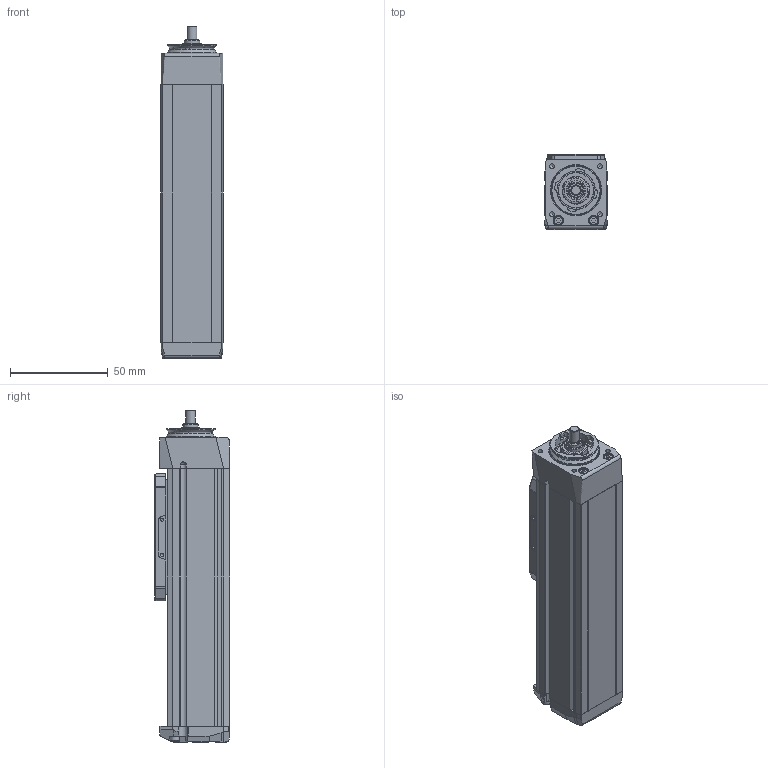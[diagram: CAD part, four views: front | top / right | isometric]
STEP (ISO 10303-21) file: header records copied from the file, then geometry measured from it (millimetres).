
FILE_DESCRIPTION(/* description */ ('STEP AP214'),/* implementation_level */ '2;1');
FILE_NAME(/* name */ 'MGBS 32 0802 50(0)',/* time_stamp */ '2023-04-12T10:38:14+02:00',/* author */ ('License CC BY-ND 4.0'),/* organization */ ('CADENAS'),/* preprocessor_version */ 'ST-DEVELOPER v19.3',/* originating_system */ 'PARTsolutions',/* authorisation */ ' ');
FILE_SCHEMA (('AUTOMOTIVE_DESIGN {1 0 10303 214 3 1 1}'));
Length unit declared in the file: millimetre
Products named in the file (6): MGBS 32 0802 50(0); MGBS 32 50_protection_strip; MGBS 32_carriage; MGBS 32_end_block; MGBS 32 50_profile; MGBS 32_drive_block
Assembly tree (5 placements, depth 2):
  MGBS 32 0802 50(0)
    MGBS 32 50_protection_strip
    MGBS 32_carriage
    MGBS 32_end_block
    MGBS 32 50_profile
    MGBS 32_drive_block
Bounding box: 32 x 38.5 x 169.5 mm (x, y, z)
Volume: 160779.8 mm3; surface area: 46458.3 mm2
Topology: 5 solids, 5 shells, 638 faces, 1686 edges, 1092 vertices
Faces by surface type: plane 301, cylinder 160, cone 94, bspline 56, torus 25, sphere 2
Full cylindrical faces by diameter (mm): 0.3 x1, 1.567 x4, 1.755 x4, 1.8 x2, 2 x2, 2.3 x4, 2.459 x8, 2.46 x4, 2.5 x11, 3 x1, 3.8 x4, 4.5 x6, 5 x5, 7.5 x1, 8 x1, 10 x1, 13.84 x1, 14.2 x1, 17.8 x1, 18.16 x1, 19.5 x1, 25 x2, 25.7 x1
Entity records: 23436 total; most frequent: CARTESIAN_POINT 4050, DIRECTION 3216, ORIENTED_EDGE 2990, EDGE_CURVE 1495, AXIS2_PLACEMENT_3D 1173, VERTEX_POINT 1077, LINE 870, VECTOR 870
